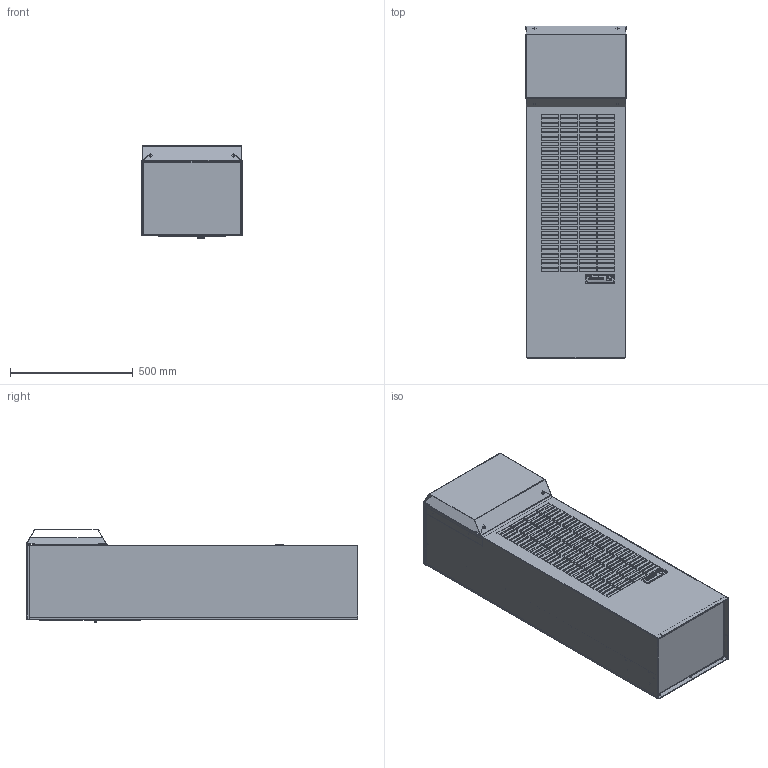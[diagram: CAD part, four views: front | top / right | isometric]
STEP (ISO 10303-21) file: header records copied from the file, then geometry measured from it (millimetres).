
FILE_DESCRIPTION (( 'STEP AP214' ), '1' );
FILE_NAME ('DTS 32x5 OutSide.step', '2019-12-05T14:13:23', ( '' ), ( '' ), 'SwSTEP 2.0', 'SolidWorks 2018', '' );
FILE_SCHEMA (( 'AUTOMOTIVE_DESIGN' ));
Length unit declared in the file: millimetre
Products named in the file (1): DTS 32x5 OutSide
Bounding box: 409.09 x 1351.71 x 377.47 mm (x, y, z)
Volume: 20255466.3 mm3; surface area: 9430389.6 mm2
Topology: 28 solids, 28 shells, 4018 faces, 10961 edges, 7147 vertices
Faces by surface type: plane 2559, cylinder 1123, bspline 288, cone 36, torus 8, sphere 4
Entity records: 238409 total; most frequent: CARTESIAN_POINT 91106, ORIENTED_EDGE 21882, DIRECTION 19759, EDGE_CURVE 10941, VECTOR 7685, LINE 7685, VERTEX_POINT 7147, AXIS2_PLACEMENT_3D 6037
